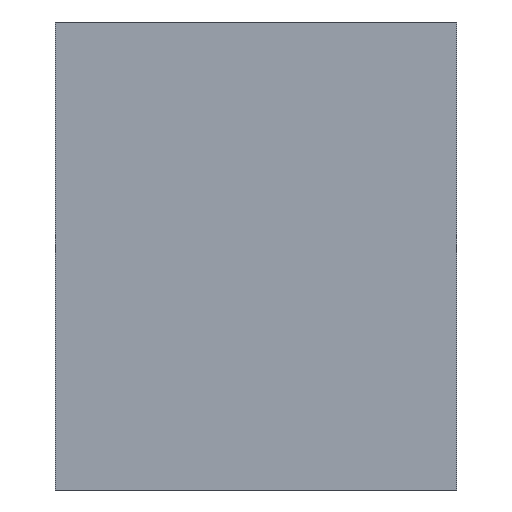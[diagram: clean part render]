
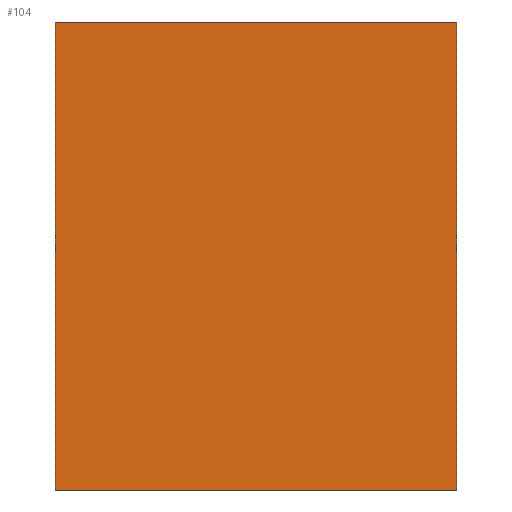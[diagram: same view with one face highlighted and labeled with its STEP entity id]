
A CAD part, left-side view. The second image highlights one B-rep face of the part: STEP entity #104.
In plain terms, the highlighted planar face has unit normal (-1, 0, 0).
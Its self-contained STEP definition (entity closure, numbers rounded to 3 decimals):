
#18=FACE_OUTER_BOUND('',#24,.T.);
#24=EDGE_LOOP('',(#83,#84,#85,#86));
#29=LINE('',#161,#41);
#33=LINE('',#170,#45);
#35=LINE('',#173,#47);
#37=LINE('',#176,#49);
#41=VECTOR('',#133,10.);
#45=VECTOR('',#139,10.);
#47=VECTOR('',#143,10.);
#49=VECTOR('',#147,10.);
#53=VERTEX_POINT('',#158);
#54=VERTEX_POINT('',#160);
#57=VERTEX_POINT('',#167);
#58=VERTEX_POINT('',#169);
#61=EDGE_CURVE('',#53,#54,#29,.T.);
#65=EDGE_CURVE('',#57,#58,#33,.T.);
#67=EDGE_CURVE('',#54,#57,#35,.T.);
#69=EDGE_CURVE('',#53,#58,#37,.T.);
#83=ORIENTED_EDGE('',*,*,#69,.T.);
#84=ORIENTED_EDGE('',*,*,#65,.F.);
#85=ORIENTED_EDGE('',*,*,#67,.F.);
#86=ORIENTED_EDGE('',*,*,#61,.F.);
#98=PLANE('',#124);
#104=ADVANCED_FACE('',(#18),#98,.F.);
#124=AXIS2_PLACEMENT_3D('',#175,#145,#146);
#133=DIRECTION('',(0.,-1.,0.));
#139=DIRECTION('',(0.,1.,0.));
#143=DIRECTION('',(0.,0.,-1.));
#145=DIRECTION('center_axis',(1.,0.,0.));
#146=DIRECTION('ref_axis',(0.,0.,-1.));
#147=DIRECTION('',(0.,0.,-1.));
#158=CARTESIAN_POINT('',(33.5,25.4,-6.4));
#160=CARTESIAN_POINT('',(33.5,20.6,-6.4));
#161=CARTESIAN_POINT('',(33.5,23.,-6.4));
#167=CARTESIAN_POINT('',(33.5,20.6,-12.));
#169=CARTESIAN_POINT('',(33.5,25.4,-12.));
#170=CARTESIAN_POINT('',(33.5,23.,-12.));
#173=CARTESIAN_POINT('',(33.5,20.6,-9.2));
#175=CARTESIAN_POINT('Origin',(33.5,23.,-9.2));
#176=CARTESIAN_POINT('',(33.5,25.4,-9.2));
